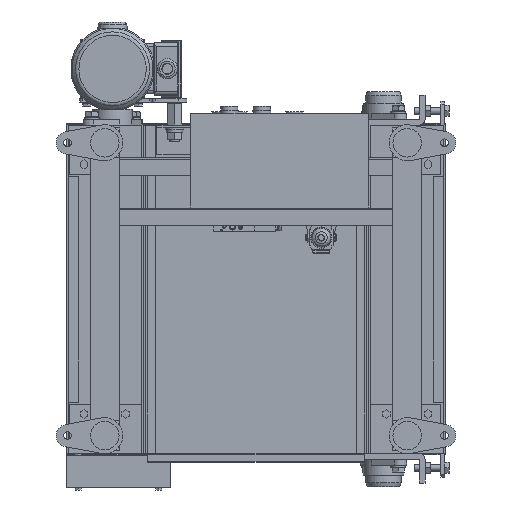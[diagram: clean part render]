
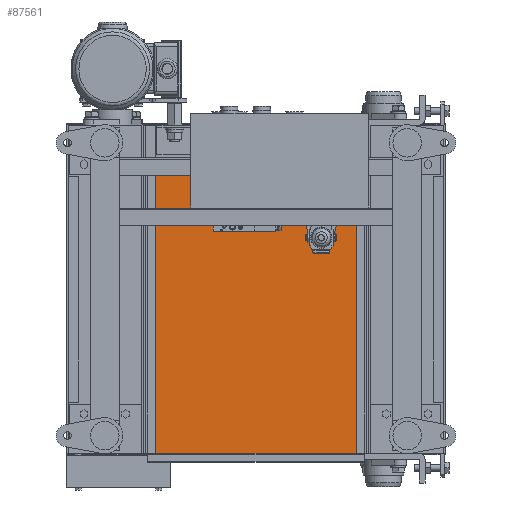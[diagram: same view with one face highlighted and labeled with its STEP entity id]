
A CAD part, front view. The second image highlights one B-rep face of the part: STEP entity #87561.
In plain terms, the highlighted planar face has unit normal (0, -1, 0).
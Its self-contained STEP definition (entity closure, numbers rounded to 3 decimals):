
#10498 = EDGE_LOOP ( 'NONE', ( #112262, #102115, #39245, #80524 ) ) ;
#11182 = VECTOR ( 'NONE', #33288, 1000. ) ;
#15751 = VECTOR ( 'NONE', #34258, 1000. ) ;
#23844 = VECTOR ( 'NONE', #127351, 1000. ) ;
#26337 = EDGE_CURVE ( 'NONE', #29820, #116809, #54776, .T. ) ;
#29820 = VERTEX_POINT ( 'NONE', #68720 ) ;
#33288 = DIRECTION ( 'NONE',  ( 0., 0., 1. ) ) ;
#34258 = DIRECTION ( 'NONE',  ( 0., 0., -1. ) ) ;
#37189 = DIRECTION ( 'NONE',  ( 0., 1., 0. ) ) ;
#39245 = ORIENTED_EDGE ( 'NONE', *, *, #64773, .F. ) ;
#41202 = LINE ( 'NONE', #88487, #67410 ) ;
#46794 = CARTESIAN_POINT ( 'NONE',  ( 320., -165., -277. ) ) ;
#54776 = LINE ( 'NONE', #66903, #23844 ) ;
#59072 = LINE ( 'NONE', #104576, #15751 ) ;
#63810 = LINE ( 'NONE', #112658, #11182 ) ;
#64773 = EDGE_CURVE ( 'NONE', #116809, #78188, #63810, .T. ) ;
#66903 = CARTESIAN_POINT ( 'NONE',  ( 502.5, -165., -278.2 ) ) ;
#67410 = VECTOR ( 'NONE', #79428, 1000. ) ;
#68720 = CARTESIAN_POINT ( 'NONE',  ( 502.5, -165., -278.2 ) ) ;
#69231 = EDGE_CURVE ( 'NONE', #78975, #29820, #59072, .T. ) ;
#78188 = VERTEX_POINT ( 'NONE', #124871 ) ;
#78975 = VERTEX_POINT ( 'NONE', #112050 ) ;
#79428 = DIRECTION ( 'NONE',  ( 1., 0., 0. ) ) ;
#80524 = ORIENTED_EDGE ( 'NONE', *, *, #26337, .F. ) ;
#82273 = CARTESIAN_POINT ( 'NONE',  ( 137.5, -165., -278.2 ) ) ;
#87561 = ADVANCED_FACE ( 'NONE', ( #88331 ), #95091, .F. ) ;
#88331 = FACE_OUTER_BOUND ( 'NONE', #10498, .T. ) ;
#88487 = CARTESIAN_POINT ( 'NONE',  ( 502.5, -165., 211. ) ) ;
#95091 = PLANE ( 'NONE',  #124079 ) ;
#102115 = ORIENTED_EDGE ( 'NONE', *, *, #119177, .F. ) ;
#104576 = CARTESIAN_POINT ( 'NONE',  ( 502.5, -165., 211. ) ) ;
#112050 = CARTESIAN_POINT ( 'NONE',  ( 502.5, -165., 211. ) ) ;
#112262 = ORIENTED_EDGE ( 'NONE', *, *, #69231, .F. ) ;
#112658 = CARTESIAN_POINT ( 'NONE',  ( 137.5, -165., 211. ) ) ;
#116809 = VERTEX_POINT ( 'NONE', #82273 ) ;
#119177 = EDGE_CURVE ( 'NONE', #78188, #78975, #41202, .T. ) ;
#124079 = AXIS2_PLACEMENT_3D ( 'NONE', #46794, #37189, #126179 ) ;
#124871 = CARTESIAN_POINT ( 'NONE',  ( 137.5, -165., 211. ) ) ;
#126179 = DIRECTION ( 'NONE',  ( 0., 0., -1. ) ) ;
#127351 = DIRECTION ( 'NONE',  ( -1., 0., 0. ) ) ;
